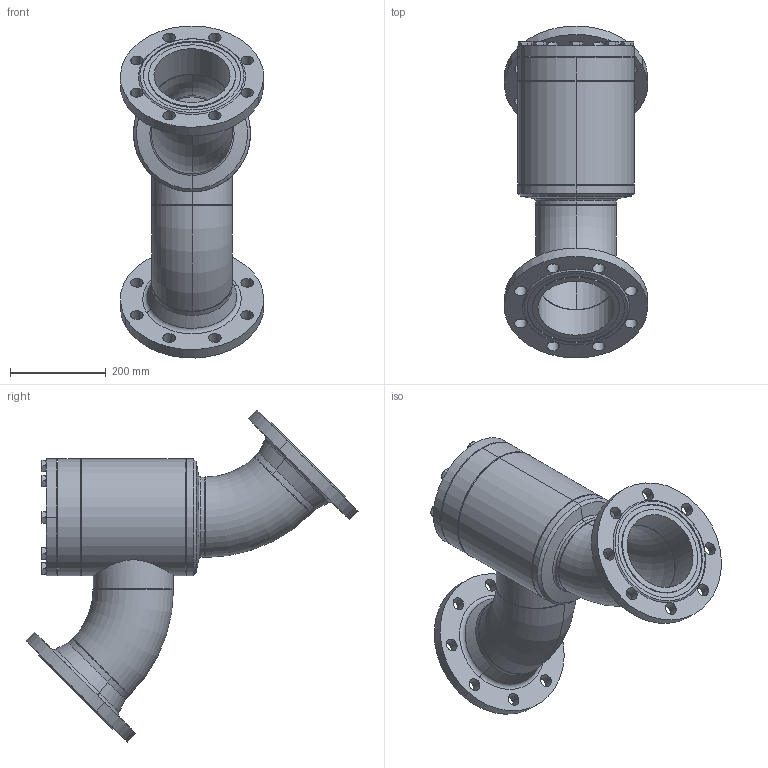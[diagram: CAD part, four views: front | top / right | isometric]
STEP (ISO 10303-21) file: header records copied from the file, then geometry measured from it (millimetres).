
FILE_DESCRIPTION (( 'STEP AP214' ), '1' );
FILE_NAME ('SS52320D21-DN150_DIN-FL-N_PS40.STEP', '2006-05-02T05:49:15', ( 'Herr Grams' ), ( 'AWP GmbH' ), 'SwSTEP 2.0', 'SolidWorks 2002296', '' );
FILE_SCHEMA (( 'AUTOMOTIVE_DESIGN' ));
Length unit declared in the file: millimetre
Products named in the file (18): SS52320D21-DN150_DIN-FL-N_PS40; Gehäuse-kpl16320-DN150_DIN_PS40_Standard; Gehäuse-kpl16300-DN150_R1_Standard; Rohrstutzen-A16300-DN150_R1_Standard; Kopfstück16300-DN150_Standard; Gehäuse16300-DN150_Standard; Boden16300-DN150_Standard; Rohrbogen 45°_Rohrbogen-DN150-45°; bead-DN150-3_Standard; bead-DN150-1_Standard; bead-DN150-2_Standard; bead-DN150-4_Standard; bead-DN150-6_Standard; Flansch-DIN-Nut_PS40_DIN-Flansch-DN150_PS40-Nut; bead-DN150-7_Standard; SS52300E21_Deck+Schr-DN150_Standard; Deckel52300E21-DN150_Standard; Sechskantschraube-DIN933_M16x 45
Assembly tree (28 placements, depth 4):
  SS52320D21-DN150_DIN-FL-N_PS40
    Gehäuse-kpl16320-DN150_DIN_PS40_Standard
      Flansch-DIN-Nut_PS40_DIN-Flansch-DN150_PS40-Nut  x2
      bead-DN150-6_Standard
      Gehäuse-kpl16300-DN150_R1_Standard
        bead-DN150-1_Standard  x2
        bead-DN150-2_Standard
        Boden16300-DN150_Standard
        Rohrstutzen-A16300-DN150_R1_Standard
        bead-DN150-4_Standard  x2
        Rohrbogen 45°_Rohrbogen-DN150-45°  x2
        Gehäuse16300-DN150_Standard
        Kopfstück16300-DN150_Standard
        bead-DN150-3_Standard
      bead-DN150-7_Standard
    SS52300E21_Deck+Schr-DN150_Standard
      Sechskantschraube-DIN933_M16x 45  x8
      Deckel52300E21-DN150_Standard
Bounding box: 299.71 x 695.17 x 695.17 mm (x, y, z)
Volume: 8644363.7 mm3; surface area: 1674811 mm2
Topology: 25 solids, 25 shells, 403 faces, 900 edges, 548 vertices
Faces by surface type: cone 128, plane 116, cylinder 113, bspline 32, torus 14
Entity records: 9289 total; most frequent: CARTESIAN_POINT 4470, DIRECTION 846, ORIENTED_EDGE 792, EDGE_CURVE 396, AXIS2_PLACEMENT_3D 376, VERTEX_POINT 250, EDGE_LOOP 228, CIRCLE 194
